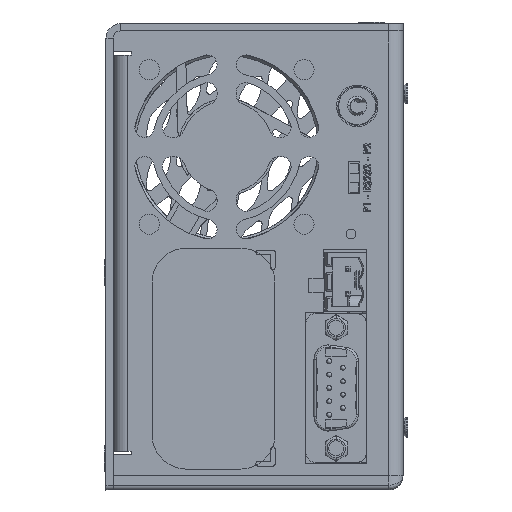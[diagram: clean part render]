
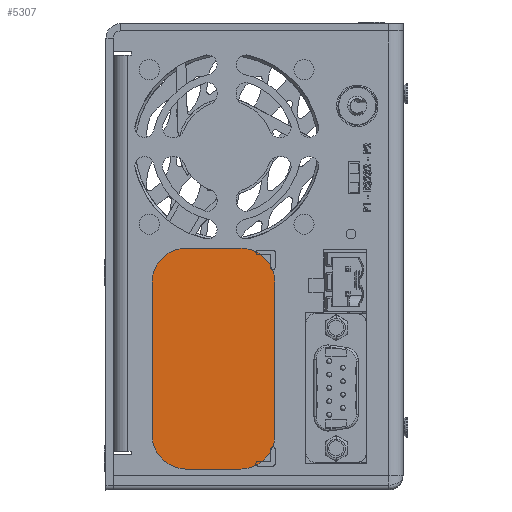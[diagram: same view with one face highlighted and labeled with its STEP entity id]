
A CAD part, left-side view. The second image highlights one B-rep face of the part: STEP entity #5307.
In plain terms, the highlighted planar face has unit normal (-1, 0, 0).
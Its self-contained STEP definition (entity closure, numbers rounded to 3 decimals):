
#170 = LINE ( 'NONE', #3207, #20095 ) ;
#606 = CARTESIAN_POINT ( 'NONE',  ( -76.891, 6.296, 101.545 ) ) ;
#919 = VERTEX_POINT ( 'NONE', #15735 ) ;
#1098 = LINE ( 'NONE', #20731, #38306 ) ;
#3207 = CARTESIAN_POINT ( 'NONE',  ( -76.891, -5.104, 108.545 ) ) ;
#3880 = VECTOR ( 'NONE', #49873, 1000. ) ;
#5004 = EDGE_CURVE ( 'NONE', #919, #12707, #36383, .T. ) ;
#5307 = ADVANCED_FACE ( 'NONE', ( #13478 ), #21434, .T. ) ;
#5477 = CARTESIAN_POINT ( 'NONE',  ( -76.891, -5.104, 69.845 ) ) ;
#5615 = ORIENTED_EDGE ( 'NONE', *, *, #33257, .T. ) ;
#6220 = CARTESIAN_POINT ( 'NONE',  ( -76.891, 6.296, 108.545 ) ) ;
#6233 = DIRECTION ( 'NONE',  ( -1., 0., 0. ) ) ;
#7043 = EDGE_CURVE ( 'NONE', #42641, #919, #1098, .T. ) ;
#7547 = DIRECTION ( 'NONE',  ( 0., 1., 0. ) ) ;
#7562 = ORIENTED_EDGE ( 'NONE', *, *, #31665, .T. ) ;
#7705 = CIRCLE ( 'NONE', #47541, 7. ) ;
#8683 = CARTESIAN_POINT ( 'NONE',  ( -76.891, -5.104, 101.545 ) ) ;
#9422 = CARTESIAN_POINT ( 'NONE',  ( -76.891, 6.296, 101.545 ) ) ;
#11350 = CIRCLE ( 'NONE', #46364, 7. ) ;
#12137 = ORIENTED_EDGE ( 'NONE', *, *, #7043, .T. ) ;
#12194 = CARTESIAN_POINT ( 'NONE',  ( -76.891, 6.296, 69.845 ) ) ;
#12707 = VERTEX_POINT ( 'NONE', #13861 ) ;
#12892 = VERTEX_POINT ( 'NONE', #25730 ) ;
#13478 = FACE_OUTER_BOUND ( 'NONE', #23511, .T. ) ;
#13481 = CARTESIAN_POINT ( 'NONE',  ( -76.891, -5.104, 62.845 ) ) ;
#13861 = CARTESIAN_POINT ( 'NONE',  ( -76.891, -5.104, 108.545 ) ) ;
#14309 = VERTEX_POINT ( 'NONE', #30664 ) ;
#15735 = CARTESIAN_POINT ( 'NONE',  ( -76.891, -12.104, 101.545 ) ) ;
#15866 = EDGE_CURVE ( 'NONE', #12707, #24243, #170, .T. ) ;
#16637 = DIRECTION ( 'NONE',  ( 0., 0., 1. ) ) ;
#18785 = LINE ( 'NONE', #22378, #3880 ) ;
#19159 = ORIENTED_EDGE ( 'NONE', *, *, #40229, .T. ) ;
#19967 = EDGE_CURVE ( 'NONE', #14309, #42641, #7705, .T. ) ;
#20095 = VECTOR ( 'NONE', #7547, 1000. ) ;
#20731 = CARTESIAN_POINT ( 'NONE',  ( -76.891, -12.104, 69.845 ) ) ;
#21434 = PLANE ( 'NONE',  #23994 ) ;
#21906 = CARTESIAN_POINT ( 'NONE',  ( -76.891, 13.296, 69.845 ) ) ;
#22378 = CARTESIAN_POINT ( 'NONE',  ( -76.891, 13.296, 69.845 ) ) ;
#23511 = EDGE_LOOP ( 'NONE', ( #7562, #19159, #5615, #43823, #37082, #12137, #30921, #29572 ) ) ;
#23994 = AXIS2_PLACEMENT_3D ( 'NONE', #9422, #25020, #36952 ) ;
#24008 = DIRECTION ( 'NONE',  ( -1., 0., 0. ) ) ;
#24243 = VERTEX_POINT ( 'NONE', #6220 ) ;
#24499 = DIRECTION ( 'NONE',  ( 0., 0., -1. ) ) ;
#25020 = DIRECTION ( 'NONE',  ( -1., 0., 0. ) ) ;
#25656 = VERTEX_POINT ( 'NONE', #21906 ) ;
#25730 = CARTESIAN_POINT ( 'NONE',  ( -76.891, 6.296, 62.845 ) ) ;
#27366 = VERTEX_POINT ( 'NONE', #39285 ) ;
#29572 = ORIENTED_EDGE ( 'NONE', *, *, #15866, .T. ) ;
#30664 = CARTESIAN_POINT ( 'NONE',  ( -76.891, -5.104, 62.845 ) ) ;
#30921 = ORIENTED_EDGE ( 'NONE', *, *, #5004, .T. ) ;
#31364 = DIRECTION ( 'NONE',  ( -1., 0., 0. ) ) ;
#31665 = EDGE_CURVE ( 'NONE', #24243, #27366, #11350, .T. ) ;
#33257 = EDGE_CURVE ( 'NONE', #25656, #12892, #44045, .T. ) ;
#34937 = DIRECTION ( 'NONE',  ( 0., 0., -1. ) ) ;
#35728 = DIRECTION ( 'NONE',  ( 0., 0., 1. ) ) ;
#36383 = CIRCLE ( 'NONE', #49401, 7. ) ;
#36952 = DIRECTION ( 'NONE',  ( 0., 0., 1. ) ) ;
#37082 = ORIENTED_EDGE ( 'NONE', *, *, #19967, .T. ) ;
#38306 = VECTOR ( 'NONE', #16637, 1000. ) ;
#38932 = CARTESIAN_POINT ( 'NONE',  ( -76.891, -12.104, 69.845 ) ) ;
#39285 = CARTESIAN_POINT ( 'NONE',  ( -76.891, 13.296, 101.545 ) ) ;
#39736 = EDGE_CURVE ( 'NONE', #12892, #14309, #41273, .T. ) ;
#40229 = EDGE_CURVE ( 'NONE', #27366, #25656, #18785, .T. ) ;
#40609 = DIRECTION ( 'NONE',  ( 0., 0., -1. ) ) ;
#41273 = LINE ( 'NONE', #13481, #48563 ) ;
#42106 = DIRECTION ( 'NONE',  ( -1., 0., 0. ) ) ;
#42444 = AXIS2_PLACEMENT_3D ( 'NONE', #12194, #24008, #34937 ) ;
#42641 = VERTEX_POINT ( 'NONE', #38932 ) ;
#43823 = ORIENTED_EDGE ( 'NONE', *, *, #39736, .T. ) ;
#44045 = CIRCLE ( 'NONE', #42444, 7. ) ;
#44091 = DIRECTION ( 'NONE',  ( 0., -1., 0. ) ) ;
#46364 = AXIS2_PLACEMENT_3D ( 'NONE', #606, #42106, #35728 ) ;
#47541 = AXIS2_PLACEMENT_3D ( 'NONE', #5477, #6233, #40609 ) ;
#48563 = VECTOR ( 'NONE', #44091, 1000. ) ;
#49401 = AXIS2_PLACEMENT_3D ( 'NONE', #8683, #31364, #24499 ) ;
#49873 = DIRECTION ( 'NONE',  ( 0., 0., -1. ) ) ;
